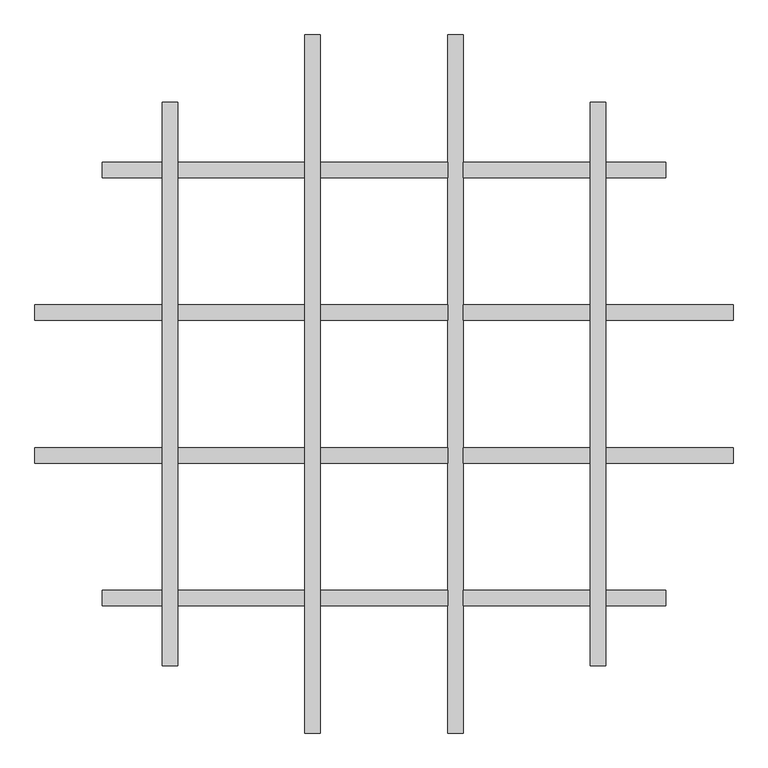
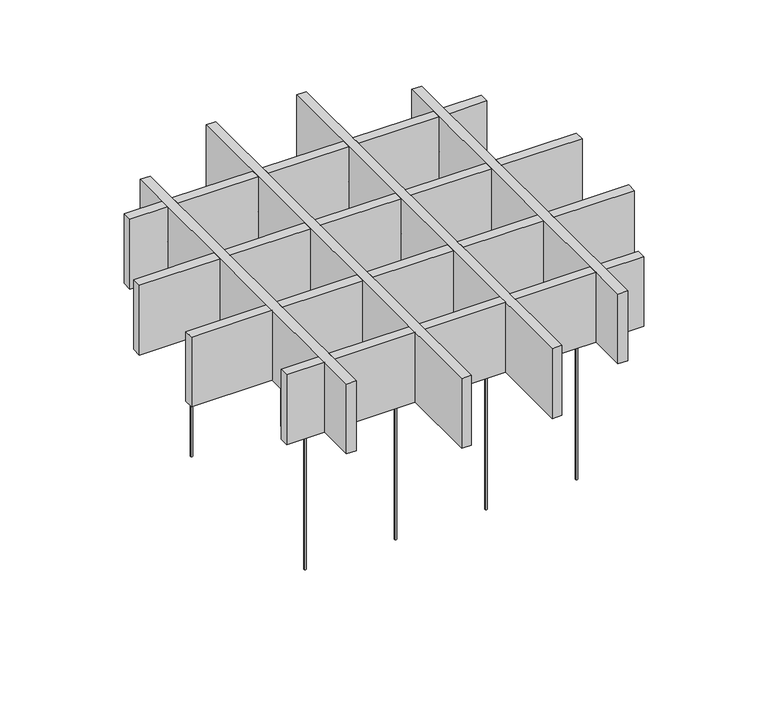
"""IFC4 building model written with IfcOpenShell, lengths in millimetres: proxy geometry, OWA FreeStyle cells : FreeStyle cells Circle."""

from ifc_helpers import new_model, si_unit, point, frame, frame_2d, origin, origin_with_axes, place, context, project, spatial, polyline, circle_curve, trimmed, segment, composite_curve, outline, extrude, source, transform, mapped, element, save


def specialty_equipment_2798e282(model_context):
    return source(origin(), model_context, "Body", "SweptSolid", [
        extrude(outline(polyline([(-991.2735027, -400.0), (-988.3867513, -395.0), (-982.6132487, -395.0), (-979.7264973, -400.0), (-982.6132487, -405.0), (-988.3867513, -405.0), (-991.2735027, -400.0)]), holes=[composite_curve([segment(trimmed(circle_curve(frame_2d((-985.5, -400.0)), 3.85), [point((-989.35, -400.0))], [point((-981.65, -400.0))], True, "CARTESIAN"), True, "CONTINUOUS"), segment(trimmed(circle_curve(frame_2d((-985.5, -400.0)), 3.85), [point((-981.65, -400.0))], [point((-989.35, -400.0))], True, "CARTESIAN"), True, "CONTINUOUS")], self_intersect=False)]), frame((0.0, 0.0, 695.0), z_axis=(0.0, 0.0, 1.0), x_axis=(1.0, 0.0, 0.0)), (0.0, 0.0, 1.0), 5.0),
        extrude(outline(composite_curve([segment(trimmed(circle_curve(frame_2d((-985.5, -400.0)), 3.85), [point((-989.35, -400.0))], [point((-981.65, -400.0))], False, "CARTESIAN"), True, "CONTINUOUS"), segment(trimmed(circle_curve(frame_2d((-985.5, -400.0)), 3.85), [point((-981.65, -400.0))], [point((-989.35, -400.0))], False, "CARTESIAN"), True, "CONTINUOUS")], self_intersect=False)), origin_with_axes(), (0.0, 0.0, 1.0), 700.0),
        extrude(outline(polyline([(-623.2735027, -400.0), (-620.3867513, -395.0), (-614.6132487, -395.0), (-611.7264973, -400.0), (-614.6132487, -405.0), (-620.3867513, -405.0), (-623.2735027, -400.0)]), holes=[composite_curve([segment(trimmed(circle_curve(frame_2d((-617.5, -400.0)), 3.85), [point((-621.35, -400.0))], [point((-613.65, -400.0))], True, "CARTESIAN"), True, "CONTINUOUS"), segment(trimmed(circle_curve(frame_2d((-617.5, -400.0)), 3.85), [point((-613.65, -400.0))], [point((-621.35, -400.0))], True, "CARTESIAN"), True, "CONTINUOUS")], self_intersect=False)]), frame((0.0, 0.0, 695.0), z_axis=(0.0, 0.0, 1.0), x_axis=(1.0, 0.0, 0.0)), (0.0, 0.0, 1.0), 5.0),
        extrude(outline(composite_curve([segment(trimmed(circle_curve(frame_2d((-617.5, -400.0)), 3.85), [point((-621.35, -400.0))], [point((-613.65, -400.0))], False, "CARTESIAN"), True, "CONTINUOUS"), segment(trimmed(circle_curve(frame_2d((-617.5, -400.0)), 3.85), [point((-613.65, -400.0))], [point((-621.35, -400.0))], False, "CARTESIAN"), True, "CONTINUOUS")], self_intersect=False)), origin_with_axes(), (0.0, 0.0, 1.0), 700.0),
        extrude(outline(polyline([(-255.2735027, -400.0), (-252.3867513, -395.0), (-246.6132487, -395.0), (-243.7264973, -400.0), (-246.6132487, -405.0), (-252.3867513, -405.0), (-255.2735027, -400.0)]), holes=[composite_curve([segment(trimmed(circle_curve(frame_2d((-249.5, -400.0)), 3.85), [point((-253.35, -400.0))], [point((-245.65, -400.0))], True, "CARTESIAN"), True, "CONTINUOUS"), segment(trimmed(circle_curve(frame_2d((-249.5, -400.0)), 3.85), [point((-245.65, -400.0))], [point((-253.35, -400.0))], True, "CARTESIAN"), True, "CONTINUOUS")], self_intersect=False)]), frame((0.0, 0.0, 695.0), z_axis=(0.0, 0.0, 1.0), x_axis=(1.0, 0.0, 0.0)), (0.0, 0.0, 1.0), 5.0),
        extrude(outline(composite_curve([segment(trimmed(circle_curve(frame_2d((-249.5, -400.0)), 3.85), [point((-253.35, -400.0))], [point((-245.65, -400.0))], False, "CARTESIAN"), True, "CONTINUOUS"), segment(trimmed(circle_curve(frame_2d((-249.5, -400.0)), 3.85), [point((-245.65, -400.0))], [point((-253.35, -400.0))], False, "CARTESIAN"), True, "CONTINUOUS")], self_intersect=False)), origin_with_axes(), (0.0, 0.0, 1.0), 700.0),
        extrude(outline(polyline([(112.7264973, -400.0), (115.6132487, -395.0), (121.3867513, -395.0), (124.2735027, -400.0), (121.3867513, -405.0), (115.6132487, -405.0), (112.7264973, -400.0)]), holes=[composite_curve([segment(trimmed(circle_curve(frame_2d((118.5, -400.0)), 3.85), [point((114.65, -400.0))], [point((122.35, -400.0))], True, "CARTESIAN"), True, "CONTINUOUS"), segment(trimmed(circle_curve(frame_2d((118.5, -400.0)), 3.85), [point((122.35, -400.0))], [point((114.65, -400.0))], True, "CARTESIAN"), True, "CONTINUOUS")], self_intersect=False)]), frame((0.0, 0.0, 695.0), z_axis=(0.0, 0.0, 1.0), x_axis=(1.0, 0.0, 0.0)), (0.0, 0.0, 1.0), 5.0),
        extrude(outline(composite_curve([segment(trimmed(circle_curve(frame_2d((118.5, -400.0)), 3.85), [point((114.65, -400.0))], [point((122.35, -400.0))], False, "CARTESIAN"), True, "CONTINUOUS"), segment(trimmed(circle_curve(frame_2d((118.5, -400.0)), 3.85), [point((122.35, -400.0))], [point((114.65, -400.0))], False, "CARTESIAN"), True, "CONTINUOUS")], self_intersect=False)), origin_with_axes(), (0.0, 0.0, 1.0), 700.0),
        extrude(outline(polyline([(112.7264973, 400.0), (115.6132487, 405.0), (121.3867513, 405.0), (124.2735027, 400.0), (121.3867513, 395.0), (115.6132487, 395.0), (112.7264973, 400.0)]), holes=[composite_curve([segment(trimmed(circle_curve(frame_2d((118.5, 400.0)), 3.85), [point((114.65, 400.0))], [point((122.35, 400.0))], True, "CARTESIAN"), True, "CONTINUOUS"), segment(trimmed(circle_curve(frame_2d((118.5, 400.0)), 3.85), [point((122.35, 400.0))], [point((114.65, 400.0))], True, "CARTESIAN"), True, "CONTINUOUS")], self_intersect=False)]), frame((0.0, 0.0, 695.0), z_axis=(0.0, 0.0, 1.0), x_axis=(1.0, 0.0, 0.0)), (0.0, 0.0, 1.0), 5.0),
        extrude(outline(composite_curve([segment(trimmed(circle_curve(frame_2d((118.5, 400.0)), 3.85), [point((114.65, 400.0))], [point((122.35, 400.0))], False, "CARTESIAN"), True, "CONTINUOUS"), segment(trimmed(circle_curve(frame_2d((118.5, 400.0)), 3.85), [point((122.35, 400.0))], [point((114.65, 400.0))], False, "CARTESIAN"), True, "CONTINUOUS")], self_intersect=False)), origin_with_axes(), (0.0, 0.0, 1.0), 700.0),
        extrude(outline(polyline([(-255.2735027, 400.0), (-252.3867513, 405.0), (-246.6132487, 405.0), (-243.7264973, 400.0), (-246.6132487, 395.0), (-252.3867513, 395.0), (-255.2735027, 400.0)]), holes=[composite_curve([segment(trimmed(circle_curve(frame_2d((-249.5, 400.0)), 3.85), [point((-253.35, 400.0))], [point((-245.65, 400.0))], True, "CARTESIAN"), True, "CONTINUOUS"), segment(trimmed(circle_curve(frame_2d((-249.5, 400.0)), 3.85), [point((-245.65, 400.0))], [point((-253.35, 400.0))], True, "CARTESIAN"), True, "CONTINUOUS")], self_intersect=False)]), frame((0.0, 0.0, 695.0), z_axis=(0.0, 0.0, 1.0), x_axis=(1.0, 0.0, 0.0)), (0.0, 0.0, 1.0), 5.0),
        extrude(outline(composite_curve([segment(trimmed(circle_curve(frame_2d((-249.5, 400.0)), 3.85), [point((-253.35, 400.0))], [point((-245.65, 400.0))], False, "CARTESIAN"), True, "CONTINUOUS"), segment(trimmed(circle_curve(frame_2d((-249.5, 400.0)), 3.85), [point((-245.65, 400.0))], [point((-253.35, 400.0))], False, "CARTESIAN"), True, "CONTINUOUS")], self_intersect=False)), origin_with_axes(), (0.0, 0.0, 1.0), 700.0),
        extrude(outline(polyline([(-623.2735027, 400.0), (-620.3867513, 405.0), (-614.6132487, 405.0), (-611.7264973, 400.0), (-614.6132487, 395.0), (-620.3867513, 395.0), (-623.2735027, 400.0)]), holes=[composite_curve([segment(trimmed(circle_curve(frame_2d((-617.5, 400.0)), 3.85), [point((-621.35, 400.0))], [point((-613.65, 400.0))], True, "CARTESIAN"), True, "CONTINUOUS"), segment(trimmed(circle_curve(frame_2d((-617.5, 400.0)), 3.85), [point((-613.65, 400.0))], [point((-621.35, 400.0))], True, "CARTESIAN"), True, "CONTINUOUS")], self_intersect=False)]), frame((0.0, 0.0, 695.0), z_axis=(0.0, 0.0, 1.0), x_axis=(1.0, 0.0, 0.0)), (0.0, 0.0, 1.0), 5.0),
        extrude(outline(composite_curve([segment(trimmed(circle_curve(frame_2d((-617.5, 400.0)), 3.85), [point((-621.35, 400.0))], [point((-613.65, 400.0))], False, "CARTESIAN"), True, "CONTINUOUS"), segment(trimmed(circle_curve(frame_2d((-617.5, 400.0)), 3.85), [point((-613.65, 400.0))], [point((-621.35, 400.0))], False, "CARTESIAN"), True, "CONTINUOUS")], self_intersect=False)), origin_with_axes(), (0.0, 0.0, 1.0), 700.0),
        extrude(outline(polyline([(-991.2735027, 400.0), (-988.3867513, 405.0), (-982.6132487, 405.0), (-979.7264973, 400.0), (-982.6132487, 395.0), (-988.3867513, 395.0), (-991.2735027, 400.0)]), holes=[composite_curve([segment(trimmed(circle_curve(frame_2d((-985.5, 400.0)), 3.85), [point((-989.35, 400.0))], [point((-981.65, 400.0))], True, "CARTESIAN"), True, "CONTINUOUS"), segment(trimmed(circle_curve(frame_2d((-985.5, 400.0)), 3.85), [point((-981.65, 400.0))], [point((-989.35, 400.0))], True, "CARTESIAN"), True, "CONTINUOUS")], self_intersect=False)]), frame((0.0, 0.0, 695.0), z_axis=(0.0, 0.0, 1.0), x_axis=(1.0, 0.0, 0.0)), (0.0, 0.0, 1.0), 5.0),
        extrude(outline(composite_curve([segment(trimmed(circle_curve(frame_2d((-985.5, 400.0)), 3.85), [point((-989.35, 400.0))], [point((-981.65, 400.0))], False, "CARTESIAN"), True, "CONTINUOUS"), segment(trimmed(circle_curve(frame_2d((-985.5, 400.0)), 3.85), [point((-981.65, 400.0))], [point((-989.35, 400.0))], False, "CARTESIAN"), True, "CONTINUOUS")], self_intersect=False)), origin_with_axes(), (0.0, 0.0, 1.0), 700.0),
        extrude(outline(polyline([(726.0, 1000.0), (726.0, 700.0), (572.0, 700.0), (572.0, 850.0), (532.0, 850.0), (532.0, 700.0), (204.0, 700.0), (204.0, 850.0), (164.0, 850.0), (164.0, 700.0), (-164.0, 700.0), (-164.0, 850.0), (-204.0, 850.0), (-204.0, 700.0), (-532.0, 700.0), (-532.0, 850.0), (-572.0, 850.0), (-572.0, 700.0), (-726.0, 700.0), (-726.0, 1000.0), (726.0, 1000.0)])), frame((98.5, 0.0, 0.0), z_axis=(1.0, 0.0, 0.0), x_axis=(0.0, 1.0, 0.0)), (0.0, 0.0, 1.0), 40.0),
        extrude(outline(polyline([(726.0, 1000.0), (726.0, 700.0), (572.0, 700.0), (572.0, 850.0), (532.0, 850.0), (532.0, 700.0), (204.0, 700.0), (204.0, 850.0), (164.0, 850.0), (164.0, 700.0), (-164.0, 700.0), (-164.0, 850.0), (-204.0, 850.0), (-204.0, 700.0), (-532.0, 700.0), (-532.0, 850.0), (-572.0, 850.0), (-572.0, 700.0), (-726.0, 700.0), (-726.0, 1000.0), (726.0, 1000.0)])), frame((-1005.5, 0.0, 0.0), z_axis=(1.0, 0.0, 0.0), x_axis=(0.0, 1.0, 0.0)), (0.0, 0.0, 1.0), 40.0),
        extrude(outline(polyline([(900.0, 1000.0), (900.0, 700.0), (572.0, 700.0), (572.0, 850.0), (532.0, 850.0), (532.0, 700.0), (204.0, 700.0), (204.0, 850.0), (164.0, 850.0), (164.0, 700.0), (-164.0, 700.0), (-164.0, 850.0), (-204.0, 850.0), (-204.0, 700.0), (-532.0, 700.0), (-532.0, 850.0), (-572.0, 850.0), (-572.0, 700.0), (-900.0, 700.0), (-900.0, 1000.0), (900.0, 1000.0)])), frame((-637.5, 0.0, 0.0), z_axis=(1.0, 0.0, 0.0), x_axis=(0.0, 1.0, 0.0)), (0.0, 0.0, 1.0), 40.0),
        extrude(outline(polyline([(700.0, 466.5), (1000.0, 466.5), (1000.0, 138.5), (850.0, 138.5), (850.0, 98.5), (1000.0, 98.5), (1000.0, -229.5), (850.0, -229.5), (850.0, -269.5), (1000.0, -269.5), (1000.0, -597.5), (850.0, -597.5), (850.0, -637.5), (1000.0, -637.5), (1000.0, -965.5), (850.0, -965.5), (850.0, -1005.5), (1000.0, -1005.5), (1000.0, -1333.5), (700.0, -1333.5), (700.0, 466.5)])), frame((0.0, -204.0, 0.0), z_axis=(0.0, 1.0, 0.0), x_axis=(0.0, 0.0, 1.0)), (0.0, 0.0, 1.0), 40.0),
        extrude(outline(polyline([(700.0, 466.5), (1000.0, 466.5), (1000.0, 138.5), (850.0, 138.5), (850.0, 98.5), (1000.0, 98.5), (1000.0, -229.5), (850.0, -229.5), (850.0, -269.5), (1000.0, -269.5), (1000.0, -597.5), (850.0, -597.5), (850.0, -637.5), (1000.0, -637.5), (1000.0, -965.5), (850.0, -965.5), (850.0, -1005.5), (1000.0, -1005.5), (1000.0, -1333.5), (700.0, -1333.5), (700.0, 466.5)])), frame((0.0, 164.0, 0.0), z_axis=(0.0, 1.0, 0.0), x_axis=(0.0, 0.0, 1.0)), (0.0, 0.0, 1.0), 40.0),
        extrude(outline(polyline([(700.0, 292.5), (1000.0, 292.5), (1000.0, 138.5), (850.0, 138.5), (850.0, 98.5), (1000.0, 98.5), (1000.0, -229.5), (850.0, -229.5), (850.0, -269.5), (1000.0, -269.5), (1000.0, -597.5), (850.0, -597.5), (850.0, -637.5), (1000.0, -637.5), (1000.0, -965.5), (850.0, -965.5), (850.0, -1005.5), (1000.0, -1005.5), (1000.0, -1159.5), (700.0, -1159.5), (700.0, 292.5)])), frame((0.0, 532.0, 0.0), z_axis=(0.0, 1.0, 0.0), x_axis=(0.0, 0.0, 1.0)), (0.0, 0.0, 1.0), 40.0),
        extrude(outline(polyline([(700.0, 292.5), (1000.0, 292.5), (1000.0, 138.5), (850.0, 138.5), (850.0, 98.5), (1000.0, 98.5), (1000.0, -229.5), (850.0, -229.5), (850.0, -269.5), (1000.0, -269.5), (1000.0, -597.5), (850.0, -597.5), (850.0, -637.5), (1000.0, -637.5), (1000.0, -965.5), (850.0, -965.5), (850.0, -1005.5), (1000.0, -1005.5), (1000.0, -1159.5), (700.0, -1159.5), (700.0, 292.5)])), frame((0.0, -572.0, 0.0), z_axis=(0.0, 1.0, 0.0), x_axis=(0.0, 0.0, 1.0)), (0.0, 0.0, 1.0), 40.0),
        extrude(outline(polyline([(900.0, 1000.0), (900.0, 700.0), (572.0, 700.0), (572.0, 850.0), (532.0, 850.0), (532.0, 700.0), (204.0, 700.0), (204.0, 850.0), (164.0, 850.0), (164.0, 700.0), (-164.0, 700.0), (-164.0, 850.0), (-204.0, 850.0), (-204.0, 700.0), (-532.0, 700.0), (-532.0, 850.0), (-572.0, 850.0), (-572.0, 700.0), (-900.0, 700.0), (-900.0, 1000.0), (900.0, 1000.0)])), frame((-269.5, 0.0, 0.0), z_axis=(1.0, 0.0, 0.0), x_axis=(0.0, 1.0, 0.0)), (0.0, 0.0, 1.0), 40.0),
    ])


if __name__ == "__main__":
    model = new_model("IFC4")
    model_context = context("Model", 3, world=origin())
    ifc_project = project(units=[si_unit("LENGTHUNIT", "METRE", prefix="MILLI")], contexts=[model_context])
    site = spatial("IfcSite", under=ifc_project)
    building = spatial("IfcBuilding", under=site)
    placement = place(None, origin())
    specialty_equipment_shape = specialty_equipment_2798e282(model_context)
    element("IfcBuildingElementProxy", 1, Name="OWA FreeStyle cells : FreeStyle cells Circle", ObjectType="OWA FreeStyle cells : FreeStyle cells Circle", at=placement, inside=building, context=model_context, shape_type="MappedRepresentation", body=[
        mapped(specialty_equipment_shape, transform((0.0, 0.0, 0.0), x_axis=(1.0, 0.0, 0.0), y_axis=(0.0, 1.0, 0.0), z_axis=(0.0, 0.0, 1.0))),
    ])
    save(model, "model.ifc")
